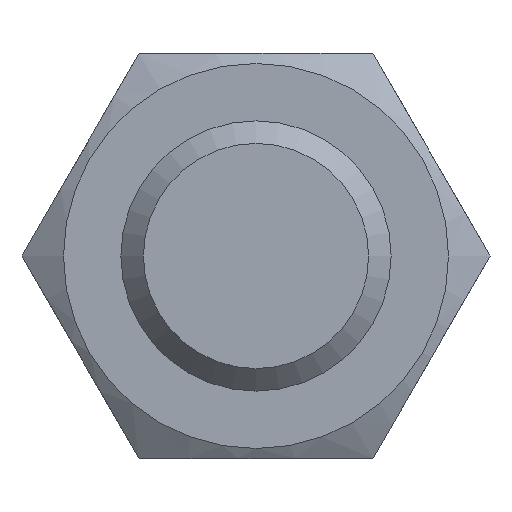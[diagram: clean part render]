
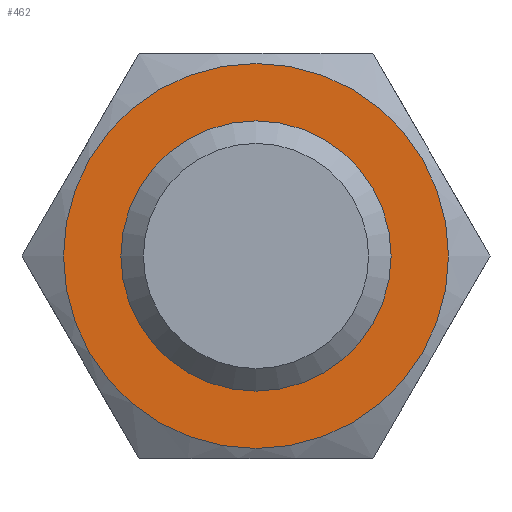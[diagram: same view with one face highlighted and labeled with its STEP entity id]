
A CAD part, left-side view. The second image highlights one B-rep face of the part: STEP entity #462.
In plain terms, the highlighted planar face has unit normal (-1, 0, 0) as drawn and (0, 0, 1) by its records, which use the part's own axes.
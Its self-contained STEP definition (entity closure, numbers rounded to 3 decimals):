
#462=ADVANCED_FACE('',(#788,#790),#792,.T.);
#788=FACE_BOUND('',#789,.T.);
#789=EDGE_LOOP('',(#982,#983));
#790=FACE_BOUND('',#791,.T.);
#791=EDGE_LOOP('',(#984));
#792=PLANE('',#793);
#793=AXIS2_PLACEMENT_3D('',#794,#795,#796);
#794=CARTESIAN_POINT('',(0.,0.,21.5));
#795=DIRECTION('',(0.,0.,1.));
#796=DIRECTION('',(1.,0.,0.));
#982=ORIENTED_EDGE('',*,*,#1074,.T.);
#983=ORIENTED_EDGE('',*,*,#1073,.T.);
#984=ORIENTED_EDGE('',*,*,#1075,.T.);
#1073=EDGE_CURVE('',#1220,#1221,#1222,.F.);
#1074=EDGE_CURVE('',#1221,#1220,#1223,.F.);
#1075=EDGE_CURVE('',#1224,#1224,#1225,.F.);
#1220=VERTEX_POINT('',#2630);
#1221=VERTEX_POINT('',#2631);
#1222=CIRCLE('',#2632,17.1);
#1223=CIRCLE('',#2636,17.1);
#1224=VERTEX_POINT('',#2640);
#1225=CIRCLE('',#2641,12.);
#2630=CARTESIAN_POINT('',(-8.55,-14.809,21.5));
#2631=CARTESIAN_POINT('',(0.,17.1,21.5));
#2632=AXIS2_PLACEMENT_3D('',#2633,#2634,#2635);
#2633=CARTESIAN_POINT('',(0.,0.,21.5));
#2634=DIRECTION('',(0.,0.,-1.));
#2635=DIRECTION('',(0.,1.,0.));
#2636=AXIS2_PLACEMENT_3D('',#2637,#2638,#2639);
#2637=CARTESIAN_POINT('',(0.,0.,21.5));
#2638=DIRECTION('',(0.,0.,-1.));
#2639=DIRECTION('',(-0.5,-0.866,0.));
#2640=CARTESIAN_POINT('',(12.,0.,21.5));
#2641=AXIS2_PLACEMENT_3D('',#2642,#2643,#2644);
#2642=CARTESIAN_POINT('',(0.,0.,21.5));
#2643=DIRECTION('',(0.,0.,1.));
#2644=DIRECTION('',(1.,0.,0.));
